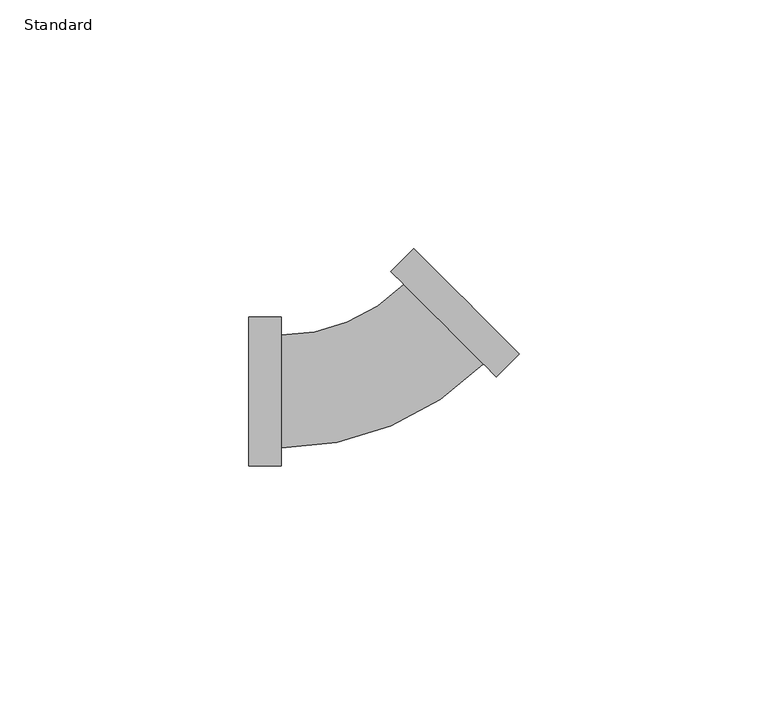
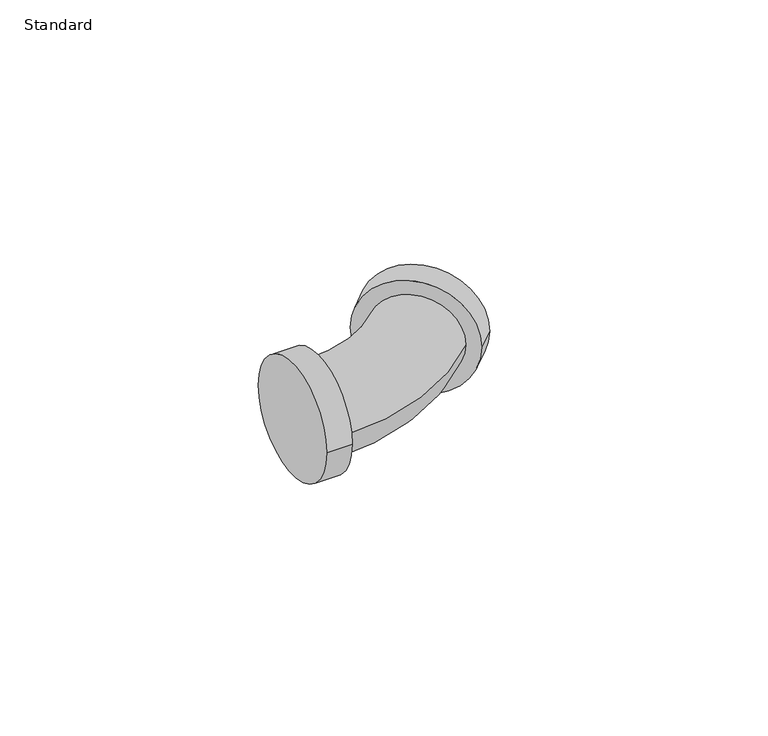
"""IFC4 building model written with IfcOpenShell, lengths in millimetres: pipe fitting geometry, Elbow_45_90-Lubrizol-CPVC-FlowGuard_MX : Standard."""

from ifc_helpers import new_model, si_unit, point, frame, origin, place, context, project, spatial, circle_curve, ellipse_curve, trimmed, source, transform, mapped, element, save
from ifc_brep_helpers import plane_surface, cylinder_surface, revolved_surface, advanced_brep


def standard_a358d471(model_context):
    return source(origin(), model_context, "Body", "AdvancedBrep", [
        advanced_brep(
        [(-25.6521875, -15.0071094, 0.0), (-25.6521875, 15.0071094, 0.0), (-19.1521875, -15.0071094, 0.0), (-19.1521875, 15.0071094, 0.0), (-19.1521875, -11.3240625, 0.0), (-19.1521875, 11.3240625, 0.0), (5.5353203, 21.549963, 0.0), (21.549963, 5.5353203, 0.0), (24.1542705, 2.9310129, 0.0), (2.9310129, 24.1542705, 0.0), (28.7504645, 7.5272069, 0.0), (7.5272069, 28.7504645, 0.0)],
        [
            (0, 1, circle_curve(frame((-25.6521875, 0.0, 0.0), z_axis=(-1.0, 0.0, 0.0), x_axis=(0.0, 1.0, 0.0)), 15.0071094)),
            (1, 0, circle_curve(frame((-25.6521875, 0.0, 0.0), z_axis=(-1.0, 0.0, 0.0), x_axis=(0.0, 1.0, 0.0)), 15.0071094)),
            (2, 3, circle_curve(frame((-19.1521875, 0.0, 0.0), z_axis=(1.0, 0.0, 0.0), x_axis=(0.0, 1.0, 0.0)), 15.0071094)),
            (3, 2, circle_curve(frame((-19.1521875, 0.0, 0.0), z_axis=(1.0, 0.0, 0.0), x_axis=(0.0, 1.0, 0.0)), 15.0071094)),
            (4, 5, circle_curve(frame((-19.1521875, 0.0, 0.0), z_axis=(-1.0, 0.0, 0.0), x_axis=(0.0, 1.0, 0.0)), 11.3240625)),
            (5, 4, circle_curve(frame((-19.1521875, 0.0, 0.0), z_axis=(-1.0, 0.0, 0.0), x_axis=(0.0, 1.0, 0.0)), 11.3240625)),
            (0, 2),
            (3, 1),
            (6, 5, circle_curve(frame((-19.1521875, 46.2374708, 0.0), z_axis=(0.0, 0.0, -1.0), x_axis=(0.0, -1.0, 0.0)), 34.9134083)),
            (4, 7, circle_curve(frame((-19.1521875, 46.2374708, 0.0), z_axis=(0.0, 0.0, 1.0), x_axis=(0.0, -1.0, 0.0)), 57.5615333)),
            (7, 6, circle_curve(frame((13.5426417, 13.5426417, 0.0), z_axis=(-0.7071067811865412, -0.7071067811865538, 0.0), x_axis=(-0.7071067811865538, 0.7071067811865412, 0.0)), 11.3240625)),
            (6, 7, circle_curve(frame((13.5426417, 13.5426417, 0.0), z_axis=(-0.7071067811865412, -0.7071067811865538, 0.0), x_axis=(-0.7071067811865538, 0.7071067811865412, 0.0)), 11.3240625)),
            (8, 9, circle_curve(frame((13.5426417, 13.5426417, 0.0), z_axis=(-0.7071067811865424, -0.7071067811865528, 0.0), x_axis=(-0.7071067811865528, 0.7071067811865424, 0.0)), 15.0071094)),
            (9, 8, circle_curve(frame((13.5426417, 13.5426417, 0.0), z_axis=(-0.7071067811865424, -0.7071067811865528, 0.0), x_axis=(-0.7071067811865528, 0.7071067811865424, 0.0)), 15.0071094)),
            (10, 11, circle_curve(frame((18.1388357, 18.1388357, 0.0), z_axis=(0.7071067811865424, 0.7071067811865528, 0.0), x_axis=(-0.7071067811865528, 0.7071067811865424, 0.0)), 15.0071094)),
            (11, 10, circle_curve(frame((18.1388357, 18.1388357, 0.0), z_axis=(0.7071067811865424, 0.7071067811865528, 0.0), x_axis=(-0.7071067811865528, 0.7071067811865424, 0.0)), 15.0071094)),
            (8, 10),
            (11, 9),
        ],
        [
            plane_surface(frame((-25.6521875, 0.0, 0.0), z_axis=(-1.0, 0.0, 0.0), x_axis=(0.0, 0.0, 1.0))),
            plane_surface(frame((-19.1521875, 0.0, 0.0), z_axis=(1.0, 0.0, 0.0), x_axis=(0.0, 0.0, 1.0))),
            cylinder_surface(frame((-25.6521875, 0.0, 0.0), z_axis=(-1.0, 0.0, 0.0), x_axis=(0.0, 1.0, 0.0)), 15.0071094),
            revolved_surface(trimmed(ellipse_curve(frame((-19.1521875, 0.0, 0.0), z_axis=(-1.0, 0.0, 0.0), x_axis=(0.0, 1.0, 0.0)), 11.3240625, 11.3240625), [point((-19.1521875, -11.3240625, 0.0))], [point((-19.1521875, 11.3240625, 0.0))], True, "CARTESIAN"), (-19.1521875, 46.2374708, 0.0), (0.0, 0.0, 1.0)),
            revolved_surface(trimmed(ellipse_curve(frame((-19.1521875, 0.0, 0.0), z_axis=(-1.0, 0.0, 0.0), x_axis=(0.0, 1.0, 0.0)), 11.3240625, 11.3240625), [point((-19.1521875, 11.3240625, 0.0))], [point((-19.1521875, -11.3240625, 0.0))], True, "CARTESIAN"), (-19.1521875, 46.2374708, 0.0), (0.0, 0.0, 1.0)),
            plane_surface(frame((13.5426417, 13.5426417, 0.0), z_axis=(-0.7071067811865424, -0.7071067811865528, 0.0), x_axis=(0.0, 0.0, 1.0))),
            plane_surface(frame((18.1388357, 18.1388357, 0.0), z_axis=(0.7071067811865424, 0.7071067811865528, 0.0), x_axis=(0.0, 0.0, 1.0))),
            cylinder_surface(frame((13.5426417, 13.5426417, 0.0), z_axis=(-0.7071067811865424, -0.7071067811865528, 0.0), x_axis=(-0.7071067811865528, 0.7071067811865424, 0.0)), 15.0071094),
        ],
        [
            (0, [[1, 2]]),
            (1, [[3, 4], [5, 6]]),
            (2, [[-1, 7, -4, 8]]),
            (2, [[-2, -8, -3, -7]]),
            (3, [[9, -5, 10, 11]]),
            (4, [[-9, 12, -10, -6]]),
            (5, [[13, 14], [-11, -12]]),
            (6, [[15, 16]]),
            (7, [[-13, 17, -16, 18]]),
            (7, [[-14, -18, -15, -17]]),
        ],
    ),
    ])


if __name__ == "__main__":
    model = new_model("IFC4")
    model_context = context("Model", 3, world=origin())
    ifc_project = project(units=[si_unit("LENGTHUNIT", "METRE", prefix="MILLI")], contexts=[model_context])
    site = spatial("IfcSite", under=ifc_project)
    building = spatial("IfcBuilding", under=site)
    placement = place(None, origin())
    standard_shape = standard_a358d471(model_context)
    element("IfcPipeFitting", 1, ObjectType="Elbow_45_90-Lubrizol-CPVC-FlowGuard_MX : Standard", at=placement, inside=building, context=model_context, shape_type="MappedRepresentation", body=[
        mapped(standard_shape, transform((0.0, 0.0, 0.0), x_axis=(1.0, 0.0, 0.0), y_axis=(0.0, 1.0, 0.0), z_axis=(0.0, 0.0, 1.0))),
    ])
    save(model, "model.ifc")
